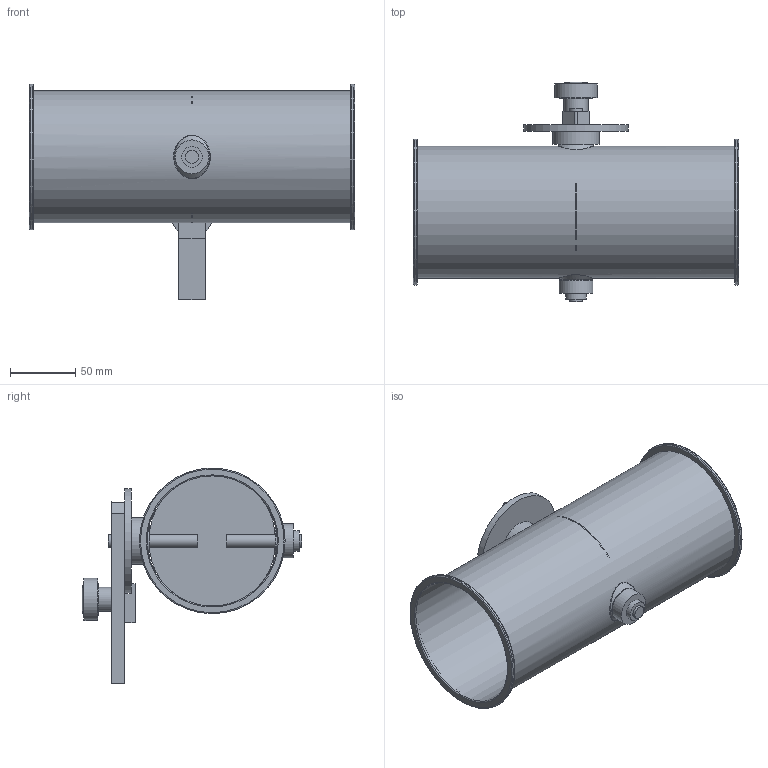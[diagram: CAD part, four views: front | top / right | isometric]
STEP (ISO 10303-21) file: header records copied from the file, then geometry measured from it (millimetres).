
FILE_DESCRIPTION(/* description */ (''),/* implementation_level */ '2;1');
FILE_NAME(/* name */ '',/* time_stamp */ '2023-03-10T15:19:45+01:00',/* author */ (''),/* organization */ (''),/* preprocessor_version */ 'ST-DEVELOPER v11',/* originating_system */ 'SIEMENS UGS NX 6.0',/* authorisation */ '');
FILE_SCHEMA (('CONFIG_CONTROL_DESIGN'));
Length unit declared in the file: millimetre
Products named in the file (1): d.ga8B38arqw
Bounding box: 250 x 169.17 x 166 mm (x, y, z)
Volume: 175794.9 mm3; surface area: 220523.6 mm2
Topology: 12 solids, 12 shells, 100 faces, 203 edges, 138 vertices
Faces by surface type: plane 46, cylinder 34, torus 10, cone 4, bspline 4, sphere 2
Full cylindrical faces by diameter (mm): 4.2 x1, 4.4 x4, 5 x1, 6 x1, 10 x5, 15 x3, 15.85 x2, 16.2 x2, 18.5 x1, 24 x2, 25 x1, 26 x1, 32.5 x1, 36 x1, 80 x1, 100 x1, 101.6 x1, 112 x2
Entity records: 2972 total; most frequent: CARTESIAN_POINT 1019, DIRECTION 400, ORIENTED_EDGE 264, EDGE_LOOP 190, AXIS2_PLACEMENT_3D 179, FACE_BOUND 168, EDGE_CURVE 132, VERTEX_POINT 116
